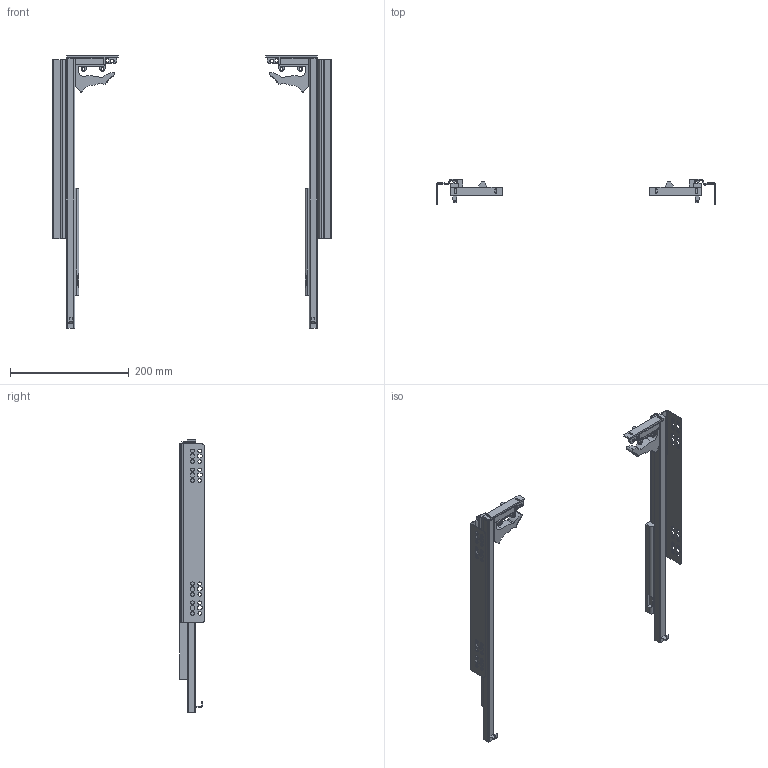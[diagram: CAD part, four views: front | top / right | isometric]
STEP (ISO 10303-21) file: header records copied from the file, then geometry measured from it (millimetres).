
FILE_DESCRIPTION(/* description */ ('Akc'),/* implementation_level */ '2;1');
FILE_NAME(/* name */ 'C:\Users\dmitruk\Documents\WORK\НАПРАВЛЯЮЩИЕ\Скрытого монтажа\Q-Type\Q-Type с замками (18 мм)\Q-Type с замками (18 мм)-450.stp',/* time_stamp */ '2022-04-22T17:47:12+03:00',/* author */ ('dmitruk'),/* organization */ (''),/* preprocessor_version */ 'ST-DEVELOPER v16.5',/* originating_system */ 'Autodesk Inventor 2017',/* authorisation */ '');
FILE_SCHEMA (('AUTOMOTIVE_DESIGN { 1 0 10303 214 3 1 1 }'));
Length unit declared in the file: millimetre
Products named in the file (6): Q-Type с замками 
(18 мм); Q-Type с замками \X2\043E0441
043D043E04320430043D04380435\X0\ L (18 мм); Q-Type с замками \X2\043E0441
043D043E04320430043D04380435\X0\ P (18 мм); Q-Type с замками 
выдвижение P; Крепление QType; Крепление QType P
Assembly tree (6 placements, depth 2):
  Q-Type с замками 
(18 мм)
    Q-Type с замками \X2\043E0441
043D043E04320430043D04380435\X0\ L (18 мм)
    Q-Type с замками 
выдвижение P  x2
    Q-Type с замками \X2\043E0441
043D043E04320430043D04380435\X0\ P (18 мм)
    Крепление QType
    Крепление QType P
Bounding box: 469.18 x 42 x 460 mm (x, y, z)
Volume: 241617.7 mm3; surface area: 255952 mm2
Topology: 14 solids, 14 shells, 570 faces, 1552 edges, 1014 vertices
Faces by surface type: plane 334, cylinder 212, cone 20, bspline 4
Full cylindrical faces by diameter (mm): 4.5 x4, 6 x32
Entity records: 17193 total; most frequent: CARTESIAN_POINT 2985, DIRECTION 2874, ORIENTED_EDGE 2800, EDGE_CURVE 1400, LINE 980, VECTOR 980, AXIS2_PLACEMENT_3D 947, VERTEX_POINT 942
